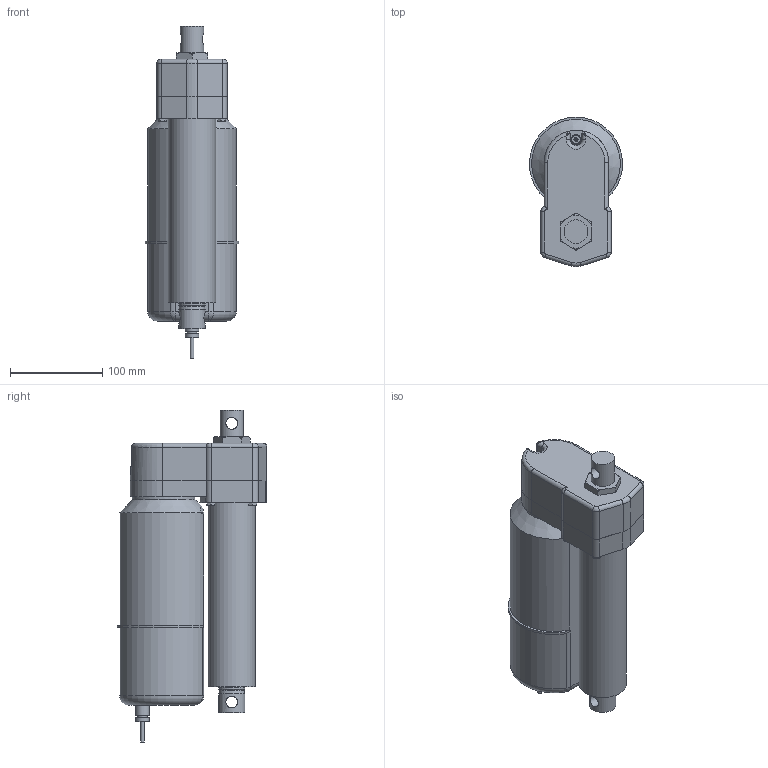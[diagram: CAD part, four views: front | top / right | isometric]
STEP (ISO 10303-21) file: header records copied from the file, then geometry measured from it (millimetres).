
FILE_DESCRIPTION (( 'STEP AP214' ), '1' );
FILE_NAME ('A42-05B5-04M0N-tollo.step', '2020-04-06T18:51:28', ( '' ), ( '' ), 'SwSTEP 2.0', 'SolidWorks 2010', '' );
FILE_SCHEMA (( 'AUTOMOTIVE_DESIGN' ));
Length unit declared in the file: millimetre
Products named in the file (7): Electrak-LA5-Motor-A42-05B5-04M0N-tollo_Electrak-LA5-Motor-A42-05B5-04M0N-tollo; Electrak-LA5-Rear-A42-05B5-04M0N-tollo_Electrak-LA5-Rear-A42-05B5-04M0N-tollo; Electrak-LA5-Tube-A42-05B5-04M0N-tollo_Electrak-LA5-Tube-A42-05B5-04M0N-tollo; Electrak-LA5-Rod-A42-05B5-04M0N-tollo_Electrak-LA5-Rod-A42-05B5-04M0N-tollo; Screw-MFX-H-M5-A42-05B5-04M0N-tollo_Screw-MFX-H-M5-A42-05B5-04M0N-tollo; Screw-M6S-M5-A42-05B5-04M0N-tollo_Screw-M6S-M5-A42-05B5-04M0N-tollo; A42-05B5-04M0N-tollo
Assembly tree (9 placements, depth 2):
  A42-05B5-04M0N-tollo
    Electrak-LA5-Tube-A42-05B5-04M0N-tollo_Electrak-LA5-Tube-A42-05B5-04M0N-tollo
    Screw-M6S-M5-A42-05B5-04M0N-tollo_Screw-M6S-M5-A42-05B5-04M0N-tollo  x4
    Electrak-LA5-Rear-A42-05B5-04M0N-tollo_Electrak-LA5-Rear-A42-05B5-04M0N-tollo
    Electrak-LA5-Motor-A42-05B5-04M0N-tollo_Electrak-LA5-Motor-A42-05B5-04M0N-tollo
    Screw-MFX-H-M5-A42-05B5-04M0N-tollo_Screw-MFX-H-M5-A42-05B5-04M0N-tollo
    Electrak-LA5-Rod-A42-05B5-04M0N-tollo_Electrak-LA5-Rod-A42-05B5-04M0N-tollo
Bounding box: 100.99 x 162.5 x 360.1 mm (x, y, z)
Volume: 2565037.6 mm3; surface area: 215826 mm2
Topology: 9 solids, 9 shells, 238 faces, 549 edges, 347 vertices
Faces by surface type: plane 95, cylinder 92, cone 31, torus 15, bspline 3, sphere 2
Full cylindrical faces by diameter (mm): 4 x1, 4.126 x5, 4.8 x2, 5 x13, 7.878 x4, 9.3 x1, 10 x1, 12.8 x2, 15 x2, 25.4 x1, 28.6 x4, 51.3 x1, 68 x1
Entity records: 5776 total; most frequent: CARTESIAN_POINT 1721, DIRECTION 806, ORIENTED_EDGE 666, AXIS2_PLACEMENT_3D 339, EDGE_CURVE 333, EDGE_LOOP 245, VERTEX_POINT 236, FACE_OUTER_BOUND 198
